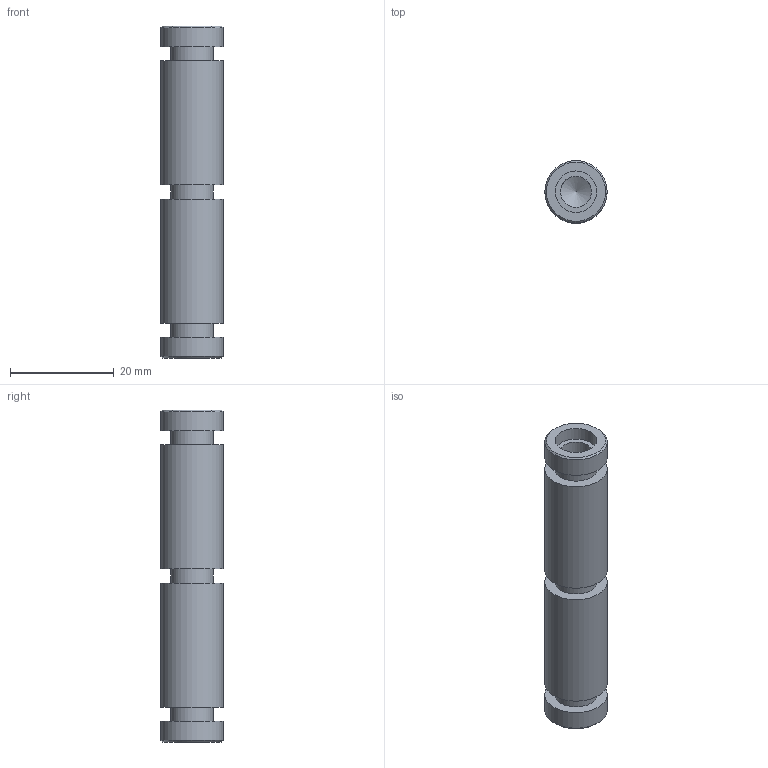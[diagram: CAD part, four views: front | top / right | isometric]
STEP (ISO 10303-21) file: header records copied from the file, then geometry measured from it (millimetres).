
FILE_DESCRIPTION(/* description */ ('Pressure Roller'),/* implementation_level */ '2;1');
FILE_NAME(/* name */ 'Z:\Werkstatt Server\Projekte\Atlas\Entwicklung u. Konstruktion\Konstruktion\CAD Daten\ITkPixToolV2.0\Stencil Tool\ITPTv2.03.00.08.stp',/* time_stamp */ '2021-08-06T14:10:57+02:00',/* author */ ('Tim Kanngießer'),/* organization */ (''),/* preprocessor_version */ 'ST-DEVELOPER v18.1',/* originating_system */ 'Autodesk Inventor 2022',/* authorisation */ '');
FILE_SCHEMA (('AUTOMOTIVE_DESIGN { 1 0 10303 214 3 1 1 }'));
Length unit declared in the file: millimetre
Products named in the file (1): ITPTv2.03.00.08
Bounding box: 12 x 12 x 64 mm (x, y, z)
Volume: 5188.9 mm3; surface area: 3873.8 mm2
Topology: 1 solids, 1 shells, 25 faces, 43 edges, 28 vertices
Faces by surface type: cylinder 11, plane 10, cone 4
Full cylindrical faces by diameter (mm): 6 x2, 8 x2, 8.2 x3, 12 x4
Entity records: 638 total; most frequent: DIRECTION 119, CARTESIAN_POINT 95, ORIENTED_EDGE 82, AXIS2_PLACEMENT_3D 52, EDGE_CURVE 41, EDGE_LOOP 35, VERTEX_POINT 28, CIRCLE 26
